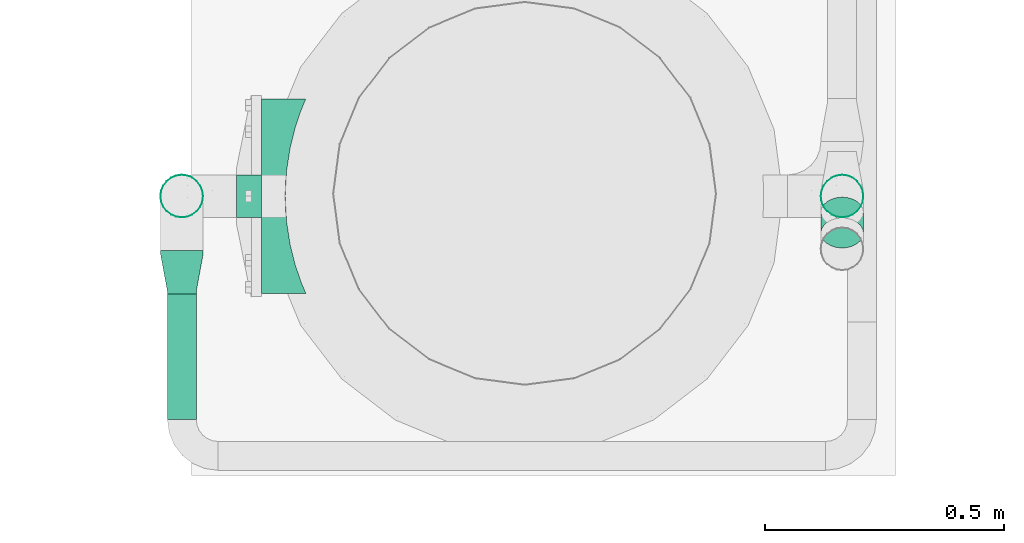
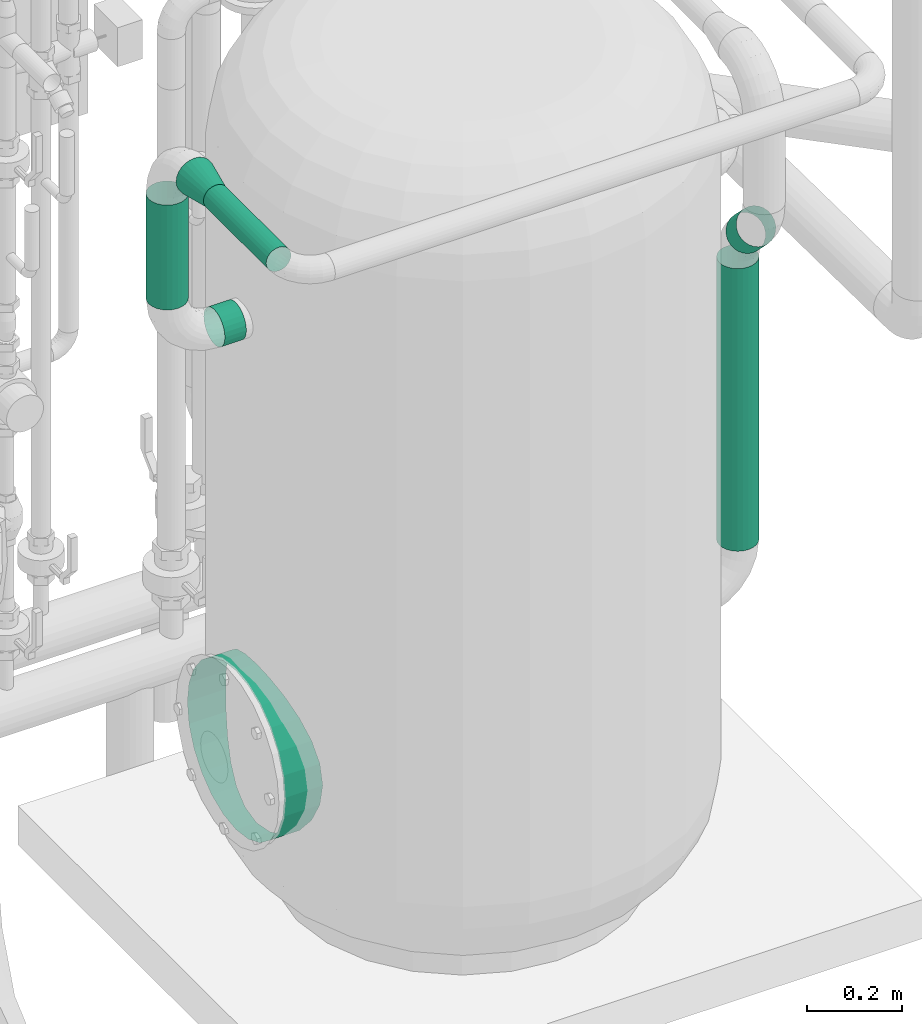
# One storey, part 260 of 374: 6 flow segments, 1 flow fitting.
"""IFC2X3 building model written with IfcOpenShell, lengths in metres."""

from ifc_helpers import new_model, si_unit, direction, origin, place, context, subcontext, project, spatial, open_shell, surface_model, source, transform, mapped, element, save


model = new_model("IFC2X3")

# Units and contexts
model_context = context("Model", 3, precision=1e-05, world=origin(), true_north=direction((-0.4480736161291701, 0.8939966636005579)))
body_context = subcontext(model_context, "Body", "Model", "MODEL_VIEW")
ifc_project = project(units=[si_unit("LENGTHUNIT", "METRE"), si_unit("AREAUNIT", "SQUARE_METRE"), si_unit("VOLUMEUNIT", "CUBIC_METRE"), si_unit("PLANEANGLEUNIT", "RADIAN"), si_unit("THERMODYNAMICTEMPERATUREUNIT", "KELVIN"), si_unit("MASSUNIT", "GRAM", prefix="KILO"), si_unit("TIMEUNIT", "SECOND")], contexts=[model_context])

# Site, building, storey
site_placement = place(None, origin())
site = spatial("IfcSite", under=ifc_project, at=site_placement, Name="Site 1", CompositionType="ELEMENT")
building_placement = place(site_placement, origin())
building = spatial("IfcBuilding", under=site, at=building_placement, Name="Undefined", CompositionType="ELEMENT")
storey_placement = place(building_placement, origin())
storey = spatial("IfcBuildingStorey", under=building, at=storey_placement, Name="Rez de chauss\x8ee", CompositionType="ELEMENT", Elevation=0.0)

# Flow segments
shared_shape_1 = source(origin(), body_context, "Body", "SurfaceModel", [
    surface_model("IfcFaceBasedSurfaceModel", [(0.055729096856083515, 0.04993179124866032, 0.0), (0.002755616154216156, 0.052701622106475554, -2.22044605e-16), (0.0, 0.0, 0.0), (0.0531183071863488, 0.0, 0.0), (-0.04841283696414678, 0.055377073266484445, -0.013729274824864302), (-0.051568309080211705, -0.004971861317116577, -0.013729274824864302), (-0.09428921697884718, 0.05777581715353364, -0.04025219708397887), (-0.09800123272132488, -0.013217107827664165, -0.04025219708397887), (-0.13174712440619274, 0.05973438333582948, -0.07776127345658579), (-0.1360283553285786, -0.02214487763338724, -0.07776127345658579), (-0.15823386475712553, 0.061119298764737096, -0.12370032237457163), (-0.16294034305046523, -0.028892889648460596, -0.12370032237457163), (-0.1719444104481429, 0.06183618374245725, -0.17493867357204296), (-0.17680843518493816, -0.03118910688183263, -0.17493867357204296), (-0.17194441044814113, 0.061836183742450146, -0.2279845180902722), (-0.17665088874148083, -0.028176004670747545, -0.2279845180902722), (-0.15823386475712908, 0.061119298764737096, -0.27922286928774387), (-0.16251509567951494, -0.02075996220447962, -0.27922286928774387), (-0.13174712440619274, 0.05973438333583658, -0.3251619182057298), (-0.13545914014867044, -0.01125854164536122, -0.3251619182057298), (-0.09428921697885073, 0.05777581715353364, -0.3626709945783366), (-0.09744468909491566, -0.0025731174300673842, -0.3626709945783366), (-0.048412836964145, 0.055377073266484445, -0.38919391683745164), (-0.05116845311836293, 0.0026754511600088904, -0.38919391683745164), (0.0027556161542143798, 0.05270162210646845, -0.4029231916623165), (0.0001448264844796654, 0.002769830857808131, -0.4029231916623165), (0.055729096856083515, 0.04993179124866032, -0.4029231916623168), (0.05297348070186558, -0.0027698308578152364, -0.4029231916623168), (0.1068975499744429, 0.04725634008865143, -0.38919391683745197), (0.10374207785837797, -0.013092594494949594, -0.38919391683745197), (0.15277392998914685, 0.044857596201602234, -0.3626709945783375), (0.14906191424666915, -0.026135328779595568, -0.3626709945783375), (0.19023183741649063, 0.04289903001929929, -0.3251619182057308), (0.18595060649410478, -0.03898023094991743, -0.3251619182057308), (0.21671857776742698, 0.04151411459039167, -0.2792228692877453), (0.21201209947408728, -0.04849807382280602, -0.2792228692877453), (0.23042912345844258, 0.040797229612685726, -0.22798451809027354), (0.22556509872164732, -0.052228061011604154, -0.22798451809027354), (0.23042912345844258, 0.04079722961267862, -0.17493867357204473), (0.22572264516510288, -0.04921495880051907, -0.17493867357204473), (0.21671857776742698, 0.04151411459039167, -0.12370032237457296), (0.21243734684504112, -0.040365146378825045, -0.12370032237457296), (0.1902318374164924, 0.04289903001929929, -0.0777612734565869), (0.1865198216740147, -0.028093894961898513, -0.0777612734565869), (0.15277392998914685, 0.044857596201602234, -0.04025219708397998), (0.14961845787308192, -0.015491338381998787, -0.04025219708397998), (0.10689754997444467, 0.04725634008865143, -0.013729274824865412), (0.10414193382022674, -0.005445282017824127, -0.013729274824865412)], [open_shell([[[0, 1, 2, 3]], [[1, 4, 5, 2]], [[4, 6, 7, 5]], [[6, 8, 9, 7]], [[8, 10, 11, 9]], [[10, 12, 13, 11]], [[12, 14, 15, 13]], [[14, 16, 17, 15]], [[16, 18, 19, 17]], [[18, 20, 21, 19]], [[20, 22, 23, 21]], [[22, 24, 25, 23]], [[24, 26, 27, 25]], [[26, 28, 29, 27]], [[28, 30, 31, 29]], [[30, 32, 33, 31]], [[32, 34, 35, 33]], [[34, 36, 37, 35]], [[36, 38, 39, 37]], [[38, 40, 41, 39]], [[40, 42, 43, 41]], [[42, 44, 45, 43]], [[44, 46, 47, 45]], [[46, 0, 3, 47]]])]),
])
flow_segment_1_placement = place(storey_placement, origin())
element("IfcFlowSegment", 1, at=flow_segment_1_placement, inside=storey, Name="Piquage sur circulaire 90°", ObjectType="Piquage sur circulaire 90°", context=body_context, shape_type="MappedRepresentation", body=[
    mapped(shared_shape_1, transform((53.84160418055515, 10.034907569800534, 0.39550829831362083), x_axis=(-0.05221579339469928, -0.990092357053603, -0.13034813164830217), y_axis=(-0.9986358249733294, 0.05176908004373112, 0.0068155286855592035), z_axis=(0.0, 0.13052619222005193, -0.9914448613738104))),
])
shared_shape_2 = source(origin(), body_context, "Body", "SurfaceModel", [
    surface_model("IfcFaceBasedSurfaceModel", [(0.0, 0.011603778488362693, 2.22044605e-16), (0.0, 0.0, 0.0), (0.0519999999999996, 4.4408921e-16, 0.0), (0.0519999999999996, 0.011603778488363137, 0.0), (0.0, -0.01120838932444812, -0.003003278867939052), (0.0519999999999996, -0.011208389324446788, -0.0030032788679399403), (0.0, -0.021257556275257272, -0.008805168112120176), (0.0519999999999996, -0.021257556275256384, -0.008805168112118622), (0.0, -0.029462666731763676, -0.017010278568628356), (0.0519999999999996, -0.02946266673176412, -0.017010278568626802), (0.0, -0.035264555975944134, -0.02705944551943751), (0.0519999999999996, -0.03526455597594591, -0.027059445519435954), (0.0, -0.03826783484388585, -0.038267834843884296), (0.0519999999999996, -0.03826783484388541, -0.0382678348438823), (0.0, -0.038267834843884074, -0.04987161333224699), (0.0519999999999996, -0.03826783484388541, -0.04987161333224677), (0.0, -0.03526455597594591, -0.06108000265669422), (0.0519999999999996, -0.035264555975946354, -0.06108000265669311), (0.0, -0.029462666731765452, -0.07112916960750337), (0.0519999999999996, -0.029462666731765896, -0.07112916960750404), (0.0, -0.021257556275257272, -0.07933428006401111), (0.0519999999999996, -0.021257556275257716, -0.07933428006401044), (0.0, -0.011208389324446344, -0.08513616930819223), (0.0519999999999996, -0.011208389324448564, -0.08513616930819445), (0.0, 0.0, -0.08813944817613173), (0.0519999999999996, -1.776356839e-15, -0.08813944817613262), (0.0, 0.011603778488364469, -0.08813944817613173), (0.0519999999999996, 0.011603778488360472, -0.08813944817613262), (0.0, 0.022812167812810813, -0.08513616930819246), (0.0519999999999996, 0.022812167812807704, -0.08513616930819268), (0.0, 0.03286133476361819, -0.07933428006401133), (0.0519999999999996, 0.0328613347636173, -0.079334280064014), (0.0, 0.04106644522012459, -0.07112916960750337), (0.0519999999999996, 0.041066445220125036, -0.07112916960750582), (0.0, 0.0468683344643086, -0.06108000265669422), (0.0519999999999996, 0.04686833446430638, -0.061080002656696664), (0.0, 0.04987161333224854, -0.04987161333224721), (0.0519999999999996, 0.04987161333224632, -0.04987161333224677), (0.0, 0.04987161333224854, -0.03826783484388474), (0.0519999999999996, 0.04987161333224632, -0.03826783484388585), (0.0, 0.04686833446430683, -0.02705944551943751), (0.0519999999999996, 0.04686833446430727, -0.027059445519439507), (0.0, 0.04106644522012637, -0.017010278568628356), (0.0519999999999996, 0.04106644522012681, -0.01701027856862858), (0.0, 0.032861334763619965, -0.00880516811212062), (0.0519999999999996, 0.03286133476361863, -0.008805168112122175), (0.0, 0.022812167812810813, -0.003003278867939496), (0.0519999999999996, 0.02281216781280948, -0.003003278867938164)], [open_shell([[[0, 1, 2, 3]], [[1, 4, 5, 2]], [[4, 6, 7, 5]], [[6, 8, 9, 7]], [[8, 10, 11, 9]], [[10, 12, 13, 11]], [[12, 14, 15, 13]], [[14, 16, 17, 15]], [[16, 18, 19, 17]], [[18, 20, 21, 19]], [[20, 22, 23, 21]], [[22, 24, 25, 23]], [[24, 26, 27, 25]], [[26, 28, 29, 27]], [[28, 30, 31, 29]], [[30, 32, 33, 31]], [[32, 34, 35, 33]], [[34, 36, 37, 35]], [[36, 38, 39, 37]], [[38, 40, 41, 39]], [[40, 42, 43, 41]], [[42, 44, 45, 43]], [[44, 46, 47, 45]], [[46, 0, 3, 47]]])]),
])
flow_segment_2_placement = place(storey_placement, origin())
element("IfcFlowSegment", 2, at=flow_segment_2_placement, inside=storey, Name="Tube acier d'après DIN 2448", ObjectType="Tube acier d'après DIN 2448", context=body_context, shape_type="MappedRepresentation", body=[
    mapped(shared_shape_2, transform((53.788830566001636, 9.939380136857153, 1.7032889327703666), x_axis=(-1.0, 0.0, 0.0), y_axis=(9.56658874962e-13, -0.13052619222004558, -0.9914448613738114), z_axis=(7.266545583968e-12, -0.9914448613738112, 0.13052619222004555))),
])
shared_shape_3 = source(origin(), body_context, "Body", "SurfaceModel", [
    surface_model("IfcFaceBasedSurfaceModel", [(0.0, 0.011603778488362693, 2.22044605e-16), (0.0, 0.0, 0.0), (0.7228049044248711, -7.105427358e-15, -4.4408921e-16), (0.7228049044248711, 0.011603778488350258, -4.4408921e-16), (0.0, -0.01120838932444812, -0.003003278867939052), (0.7228049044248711, -0.011208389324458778, -0.003003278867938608), (0.0, -0.021257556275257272, -0.008805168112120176), (0.7228049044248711, -0.021257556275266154, -0.00880516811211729), (0.0, -0.029462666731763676, -0.017010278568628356), (0.7228049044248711, -0.02946266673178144, -0.01701027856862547), (0.0, -0.035264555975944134, -0.02705944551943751), (0.7228049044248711, -0.03526455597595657, -0.02705944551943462), (0.0, -0.03826783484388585, -0.038267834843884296), (0.7228049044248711, -0.038267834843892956, -0.038267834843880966), (0.0, -0.038267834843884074, -0.04987161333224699), (0.7228049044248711, -0.03826783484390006, -0.04987161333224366), (0.0, -0.03526455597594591, -0.06108000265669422), (0.7228049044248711, -0.03526455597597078, -0.06108000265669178), (0.0, -0.029462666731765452, -0.07112916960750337), (0.7228049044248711, -0.02946266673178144, -0.07112916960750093), (0.0, -0.021257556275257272, -0.07933428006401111), (0.7228049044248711, -0.02125755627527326, -0.07933428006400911), (0.0, -0.011208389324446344, -0.08513616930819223), (0.7228049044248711, -0.011208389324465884, -0.08513616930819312), (0.0, 0.0, -0.08813944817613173), (0.7228049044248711, -2.1316282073e-14, -0.08813944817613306), (0.0, 0.011603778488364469, -0.08813944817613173), (0.7228049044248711, 0.011603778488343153, -0.08813944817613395), (0.0, 0.022812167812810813, -0.08513616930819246), (0.7228049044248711, 0.02281216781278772, -0.08513616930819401), (0.0, 0.03286133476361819, -0.07933428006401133), (0.7228049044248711, 0.0328613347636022, -0.07933428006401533), (0.0, 0.04106644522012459, -0.07112916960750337), (0.7228049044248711, 0.04106644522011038, -0.07112916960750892), (0.0, 0.0468683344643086, -0.06108000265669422), (0.7228049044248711, 0.04686833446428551, -0.061080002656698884), (0.0, 0.04987161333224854, -0.04987161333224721), (0.7228049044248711, 0.049871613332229, -0.04987161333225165), (0.0, 0.04987161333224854, -0.03826783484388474), (0.7228049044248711, 0.049871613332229, -0.03826783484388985), (0.0, 0.04686833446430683, -0.02705944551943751), (0.7228049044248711, 0.04686833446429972, -0.027059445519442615), (0.0, 0.04106644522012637, -0.017010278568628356), (0.7228049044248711, 0.04106644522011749, -0.017010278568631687), (0.0, 0.032861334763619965, -0.00880516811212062), (0.7228049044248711, 0.0328613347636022, -0.008805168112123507), (0.0, 0.022812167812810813, -0.003003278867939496), (0.7228049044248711, 0.02281216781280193, -0.0030032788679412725)], [open_shell([[[0, 1, 2, 3]], [[1, 4, 5, 2]], [[4, 6, 7, 5]], [[6, 8, 9, 7]], [[8, 10, 11, 9]], [[10, 12, 13, 11]], [[12, 14, 15, 13]], [[14, 16, 17, 15]], [[16, 18, 19, 17]], [[18, 20, 21, 19]], [[20, 22, 23, 21]], [[22, 24, 25, 23]], [[24, 26, 27, 25]], [[26, 28, 29, 27]], [[28, 30, 31, 29]], [[30, 32, 33, 31]], [[32, 34, 35, 33]], [[34, 36, 37, 35]], [[36, 38, 39, 37]], [[38, 40, 41, 39]], [[40, 42, 43, 41]], [[42, 44, 45, 43]], [[44, 46, 47, 45]], [[46, 0, 3, 47]]])]),
])
flow_segment_3_placement = place(storey_placement, origin())
element("IfcFlowSegment", 3, at=flow_segment_3_placement, inside=storey, Name="Tube acier d'après DIN 2448", ObjectType="Tube acier d'après DIN 2448", context=body_context, shape_type="MappedRepresentation", body=[
    mapped(shared_shape_3, transform((54.991326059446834, 10.025250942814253, 0.7057844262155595), x_axis=(0.0, 0.0, 1.0), y_axis=(0.9914448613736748, 0.13052619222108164, 0.0), z_axis=(-0.13052619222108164, 0.9914448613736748, 0.0))),
])
shared_shape_4 = source(origin(), body_context, "Body", "SurfaceModel", [
    surface_model("IfcFaceBasedSurfaceModel", [(0.0, 0.011603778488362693, 2.22044605e-16), (0.0, 0.0, 0.0), (0.06157015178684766, 0.0, 0.0), (0.06157015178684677, 0.011603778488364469, 0.0), (0.0, -0.01120838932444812, -0.003003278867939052), (0.06157015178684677, -0.011208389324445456, -0.003003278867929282), (0.0, -0.021257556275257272, -0.008805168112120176), (0.06157015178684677, -0.021257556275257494, -0.008805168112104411), (0.0, -0.029462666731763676, -0.017010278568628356), (0.06157015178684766, -0.029462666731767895, -0.01701027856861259), (0.0, -0.035264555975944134, -0.02705944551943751), (0.06157015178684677, -0.03526455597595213, -0.027059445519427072), (0.0, -0.03826783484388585, -0.038267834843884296), (0.06157015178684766, -0.03826783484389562, -0.038267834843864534), (0.0, -0.038267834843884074, -0.04987161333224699), (0.06157015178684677, -0.038267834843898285, -0.049871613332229), (0.0, -0.03526455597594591, -0.06108000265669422), (0.06157015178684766, -0.03526455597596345, -0.06108000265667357), (0.0, -0.029462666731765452, -0.07112916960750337), (0.06157015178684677, -0.029462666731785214, -0.07112916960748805), (0.0, -0.021257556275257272, -0.07933428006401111), (0.06157015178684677, -0.021257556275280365, -0.07933428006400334), (0.0, -0.011208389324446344, -0.08513616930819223), (0.06157015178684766, -0.011208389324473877, -0.08513616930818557), (0.0, 0.0, -0.08813944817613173), (0.06157015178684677, -2.5757174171e-14, -0.08813944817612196), (0.0, 0.011603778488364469, -0.08813944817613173), (0.061570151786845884, 0.011603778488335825, -0.08813944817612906), (0.0, 0.022812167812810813, -0.08513616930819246), (0.061570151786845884, 0.022812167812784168, -0.08513616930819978), (0.0, 0.03286133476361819, -0.07933428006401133), (0.06157015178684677, 0.03286133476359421, -0.07933428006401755), (0.0, 0.04106644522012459, -0.07112916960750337), (0.061570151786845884, 0.041066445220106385, -0.07112916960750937), (0.0, 0.0468683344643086, -0.06108000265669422), (0.06157015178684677, 0.04686833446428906, -0.0610800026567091), (0.0, 0.04987161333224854, -0.04987161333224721), (0.061570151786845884, 0.049871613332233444, -0.049871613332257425), (0.0, 0.04987161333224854, -0.03826783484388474), (0.06157015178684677, 0.04987161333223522, -0.03826783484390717), (0.0, 0.04686833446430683, -0.02705944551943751), (0.061570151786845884, 0.04686833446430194, -0.02705944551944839), (0.0, 0.04106644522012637, -0.017010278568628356), (0.06157015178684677, 0.04106644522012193, -0.017010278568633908), (0.0, 0.032861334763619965, -0.00880516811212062), (0.061570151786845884, 0.03286133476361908, -0.008805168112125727), (0.0, 0.022812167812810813, -0.003003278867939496), (0.061570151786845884, 0.022812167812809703, -0.003003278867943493)], [open_shell([[[0, 1, 2, 3]], [[1, 4, 5, 2]], [[4, 6, 7, 5]], [[6, 8, 9, 7]], [[8, 10, 11, 9]], [[10, 12, 13, 11]], [[12, 14, 15, 13]], [[14, 16, 17, 15]], [[16, 18, 19, 17]], [[18, 20, 21, 19]], [[20, 22, 23, 21]], [[22, 24, 25, 23]], [[24, 26, 27, 25]], [[26, 28, 29, 27]], [[28, 30, 31, 29]], [[30, 32, 33, 31]], [[32, 34, 35, 33]], [[34, 36, 37, 35]], [[36, 38, 39, 37]], [[38, 40, 41, 39]], [[40, 42, 43, 41]], [[42, 44, 45, 43]], [[44, 46, 47, 45]], [[46, 0, 3, 47]]])]),
])
flow_segment_4_placement = place(storey_placement, origin())
element("IfcFlowSegment", 4, at=flow_segment_4_placement, inside=storey, Name="Tube acier d'après DIN 2448", ObjectType="Tube acier d'après DIN 2448", context=body_context, shape_type="MappedRepresentation", body=[
    mapped(shared_shape_4, transform((54.95989516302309, 9.94079079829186, 1.5010645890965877), x_axis=(-8.6595606e-17, -0.7071067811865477, 0.7071067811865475), y_axis=(-0.13052619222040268, 0.701057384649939, 0.7010573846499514), z_axis=(-0.9914448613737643, -0.09229595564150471, -0.09229595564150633))),
])
shared_shape_5 = source(origin(), body_context, "Body", "SurfaceModel", [
    surface_model("IfcFaceBasedSurfaceModel", [(0.0, 0.011603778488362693, 2.22044605e-16), (0.0, 0.0, 0.0), (0.2682155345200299, 0.0, -1.776356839e-15), (0.2682155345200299, 0.011603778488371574, -1.776356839e-15), (0.0, -0.01120838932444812, -0.003003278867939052), (0.2682155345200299, -0.011208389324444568, -0.0030032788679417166), (0.0, -0.021257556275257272, -0.008805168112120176), (0.2682155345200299, -0.02125755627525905, -0.008805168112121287), (0.0, -0.029462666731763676, -0.017010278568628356), (0.2682155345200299, -0.02946266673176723, -0.017010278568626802), (0.0, -0.035264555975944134, -0.02705944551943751), (0.2682155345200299, -0.03526455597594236, -0.02705944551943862), (0.0, -0.03826783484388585, -0.038267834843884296), (0.2682155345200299, -0.038267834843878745, -0.03826783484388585), (0.0, -0.038267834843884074, -0.04987161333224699), (0.2682155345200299, -0.03826783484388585, -0.049871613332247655), (0.0, -0.03526455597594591, -0.06108000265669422), (0.2682155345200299, -0.03526455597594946, -0.06108000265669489), (0.0, -0.029462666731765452, -0.07112916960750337), (0.2682155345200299, -0.02946266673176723, -0.07112916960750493), (0.0, -0.021257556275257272, -0.07933428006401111), (0.2682155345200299, -0.02125755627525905, -0.07933428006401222), (0.0, -0.011208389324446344, -0.08513616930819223), (0.2682155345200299, -0.011208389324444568, -0.08513616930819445), (0.0, 0.0, -0.08813944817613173), (0.2682155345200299, 7.105427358e-15, -0.0881394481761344), (0.0, 0.011603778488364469, -0.08813944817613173), (0.2682155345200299, 0.011603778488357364, -0.0881394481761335), (0.0, 0.022812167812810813, -0.08513616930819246), (0.2682155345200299, 0.02281216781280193, -0.08513616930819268), (0.0, 0.03286133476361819, -0.07933428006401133), (0.2682155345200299, 0.03286133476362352, -0.079334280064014), (0.0, 0.04106644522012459, -0.07112916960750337), (0.2682155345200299, 0.0410664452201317, -0.07112916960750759), (0.0, 0.0468683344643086, -0.06108000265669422), (0.2682155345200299, 0.04686833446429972, -0.061080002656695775), (0.0, 0.04987161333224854, -0.04987161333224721), (0.2682155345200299, 0.049871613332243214, -0.04987161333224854), (0.0, 0.04987161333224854, -0.03826783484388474), (0.2682155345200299, 0.049871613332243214, -0.03826783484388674), (0.0, 0.04686833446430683, -0.02705944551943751), (0.2682155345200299, 0.04686833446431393, -0.027059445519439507), (0.0, 0.04106644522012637, -0.017010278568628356), (0.2682155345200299, 0.0410664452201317, -0.017010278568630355), (0.0, 0.032861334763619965, -0.00880516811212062), (0.2682155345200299, 0.03286133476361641, -0.008805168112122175), (0.0, 0.022812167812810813, -0.003003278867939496), (0.2682155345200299, 0.02281216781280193, -0.0030032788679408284)], [open_shell([[[0, 1, 2, 3]], [[1, 4, 5, 2]], [[4, 6, 7, 5]], [[6, 8, 9, 7]], [[8, 10, 11, 9]], [[10, 12, 13, 11]], [[12, 14, 15, 13]], [[14, 16, 17, 15]], [[16, 18, 19, 17]], [[18, 20, 21, 19]], [[20, 22, 23, 21]], [[22, 24, 25, 23]], [[24, 26, 27, 25]], [[26, 28, 29, 27]], [[28, 30, 31, 29]], [[30, 32, 33, 31]], [[32, 34, 35, 33]], [[34, 36, 37, 35]], [[36, 38, 39, 37]], [[38, 40, 41, 39]], [[40, 42, 43, 41]], [[42, 44, 45, 43]], [[44, 46, 47, 45]], [[46, 0, 3, 47]]])]),
])
flow_segment_5_placement = place(storey_placement, origin())
element("IfcFlowSegment", 5, at=flow_segment_5_placement, inside=storey, Name="Tube acier d'après DIN 2448", ObjectType="Tube acier d'après DIN 2448", context=body_context, shape_type="MappedRepresentation", body=[
    mapped(shared_shape_5, transform((53.63433507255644, 9.939380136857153, 1.8057844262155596), x_axis=(0.0, 0.0, 1.0), y_axis=(-0.9914448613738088, -0.13052619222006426, 0.0), z_axis=(0.13052619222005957, -0.9914448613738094, 0.0))),
])

# Flow fitting
shared_shape_6 = source(origin(), body_context, "Body", "SurfaceModel", [
    surface_model("IfcFaceBasedSurfaceModel", [(0.0, 0.0, 0.0), (0.011603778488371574, 0.0, -1.776356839e-15), (0.011603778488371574, 0.0071496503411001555, -1.776356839e-15), (7.105427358e-15, 0.0071496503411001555, 0.0), (0.022812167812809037, 0.0, -0.0030032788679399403), (0.022812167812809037, 0.0071496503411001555, -0.0030032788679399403), (0.03286133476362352, 0.0, -0.008805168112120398), (0.03286133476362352, 0.0071496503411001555, -0.008805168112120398), (0.0410664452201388, 0.0, -0.01701027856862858), (0.0410664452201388, 0.0071496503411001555, -0.01701027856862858), (0.04686833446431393, 0.0, -0.027059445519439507), (0.04686833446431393, 0.0071496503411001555, -0.027059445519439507), (0.04987161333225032, 0.0, -0.03826783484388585), (0.04987161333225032, 0.0071496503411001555, -0.03826783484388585), (0.049871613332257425, 0.0, -0.04987161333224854), (0.049871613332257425, 0.0071496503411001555, -0.04987161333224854), (0.04686833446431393, 0.0, -0.06108000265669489), (0.04686833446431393, 0.0071496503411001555, -0.06108000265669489), (0.0410664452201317, 0.0, -0.07112916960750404), (0.0410664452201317, 0.0071496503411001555, -0.07112916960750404), (0.03286133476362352, 0.0, -0.07933428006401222), (0.03286133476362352, 0.0071496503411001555, -0.07933428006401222), (0.022812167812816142, 0.0, -0.08513616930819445), (0.022812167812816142, 0.0071496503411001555, -0.08513616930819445), (0.011603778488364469, 0.0, -0.08813944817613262), (0.011603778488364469, 0.0071496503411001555, -0.08813944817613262), (0.0, 0.0, -0.08813944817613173), (1.4210854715e-14, 0.0071496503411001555, -0.08813944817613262), (-0.011208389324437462, 0.0, -0.08513616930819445), (-0.011208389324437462, 0.0071496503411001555, -0.08513616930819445), (-0.021257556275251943, 0.0, -0.07933428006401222), (-0.021257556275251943, 0.0071496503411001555, -0.07933428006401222), (-0.02946266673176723, 0.0, -0.07112916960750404), (-0.02946266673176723, 0.0071496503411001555, -0.07112916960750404), (-0.03526455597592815, 0.0, -0.06108000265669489), (-0.03526455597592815, 0.0071496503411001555, -0.06108000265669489), (-0.038267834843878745, 0.0, -0.04987161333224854), (-0.038267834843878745, 0.0071496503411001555, -0.04987161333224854), (-0.03826783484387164, 0.0, -0.038267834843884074), (-0.03826783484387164, 0.0071496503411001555, -0.038267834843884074), (-0.03526455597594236, 0.0, -0.027059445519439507), (-0.03526455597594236, 0.0071496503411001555, -0.027059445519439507), (-0.029462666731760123, 0.0, -0.01701027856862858), (-0.029462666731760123, 0.0071496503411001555, -0.01701027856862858), (-0.021257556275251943, 0.0, -0.008805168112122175), (-0.021257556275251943, 0.0071496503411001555, -0.008805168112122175), (-0.011208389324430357, 0.0, -0.0030032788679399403), (-0.011208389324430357, 0.0071496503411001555, -0.0030032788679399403), (0.03569395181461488, 0.08450909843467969, -0.04800508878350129), (0.035693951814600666, 0.08450909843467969, -0.0401343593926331), (0.0336568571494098, 0.08450909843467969, -0.05560762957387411), (0.029721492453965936, 0.08450909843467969, -0.06242388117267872), (0.024156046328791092, 0.08450909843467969, -0.06798932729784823), (0.01733979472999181, 0.08450909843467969, -0.07192469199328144), (0.009737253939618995, 0.08450909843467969, -0.07396178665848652), (0.0018665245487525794, 0.08450909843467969, -0.07396178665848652), (-0.005736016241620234, 0.08450909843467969, -0.07192469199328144), (-0.012552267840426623, 0.08450909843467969, -0.06798932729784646), (-0.018117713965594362, 0.08450909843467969, -0.062423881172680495), (-0.022053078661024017, 0.08450909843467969, -0.05560762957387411), (-0.024090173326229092, 0.08450909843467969, -0.04800508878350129), (-0.024090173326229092, 0.08450909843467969, -0.040134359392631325), (-0.022053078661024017, 0.08450909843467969, -0.03253181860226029), (-0.018117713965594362, 0.08450909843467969, -0.0257155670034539), (-0.012552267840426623, 0.08450909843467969, -0.02015012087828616), (-0.005736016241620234, 0.08450909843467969, -0.016214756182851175), (0.0018665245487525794, 0.08450909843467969, -0.0141776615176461), (0.009737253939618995, 0.08450909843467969, -0.0141776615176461), (0.017339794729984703, 0.08450909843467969, -0.016214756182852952), (0.024156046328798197, 0.08450909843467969, -0.02015012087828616), (0.029721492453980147, 0.08450909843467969, -0.0257155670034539), (0.0336568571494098, 0.08450909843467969, -0.03253181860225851), (0.009737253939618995, 0.08999999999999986, -0.0141776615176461), (0.0018665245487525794, 0.08999999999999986, -0.0141776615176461), (0.017339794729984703, 0.08999999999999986, -0.016214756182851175), (0.024156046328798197, 0.08999999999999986, -0.02015012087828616), (0.029721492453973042, 0.08999999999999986, -0.0257155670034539), (0.0336568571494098, 0.08999999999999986, -0.03253181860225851), (0.035693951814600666, 0.08999999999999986, -0.0401343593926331), (0.03569395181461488, 0.08999999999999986, -0.04800508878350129), (0.0336568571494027, 0.08999999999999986, -0.05560762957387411), (0.029721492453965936, 0.08999999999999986, -0.06242388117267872), (0.024156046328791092, 0.08999999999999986, -0.06798932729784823), (0.01733979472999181, 0.08999999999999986, -0.07192469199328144), (0.00973725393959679, 0.08999999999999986, -0.07396178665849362), (0.0018665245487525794, 0.08999999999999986, -0.07396178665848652), (-0.005736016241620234, 0.08999999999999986, -0.07192469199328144), (-0.012552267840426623, 0.08999999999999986, -0.06798932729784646), (-0.018117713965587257, 0.08999999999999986, -0.06242388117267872), (-0.022053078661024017, 0.08999999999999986, -0.05560762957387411), (-0.024090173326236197, 0.08999999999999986, -0.04800508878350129), (-0.024090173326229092, 0.08999999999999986, -0.040134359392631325), (-0.02205307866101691, 0.08999999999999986, -0.03253181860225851), (-0.018117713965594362, 0.08999999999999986, -0.0257155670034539), (-0.012552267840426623, 0.08999999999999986, -0.020150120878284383), (-0.005736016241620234, 0.08999999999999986, -0.016214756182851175)], [open_shell([[[0, 1, 2, 3]], [[1, 4, 5, 2]], [[4, 6, 7, 5]], [[6, 8, 9, 7]], [[8, 10, 11, 9]], [[10, 12, 13, 11]], [[12, 14, 15, 13]], [[14, 16, 17, 15]], [[16, 18, 19, 17]], [[18, 20, 21, 19]], [[20, 22, 23, 21]], [[22, 24, 25, 23]], [[24, 26, 27, 25]], [[26, 28, 29, 27]], [[28, 30, 31, 29]], [[30, 32, 33, 31]], [[32, 34, 35, 33]], [[34, 36, 37, 35]], [[36, 38, 39, 37]], [[38, 40, 41, 39]], [[40, 42, 43, 41]], [[42, 44, 45, 43]], [[44, 46, 47, 45]], [[46, 0, 3, 47]], [[13, 15, 48, 49]], [[15, 17, 50, 48]], [[17, 19, 51, 50]], [[19, 21, 52, 51]], [[21, 23, 53, 52]], [[23, 25, 54, 53]], [[25, 27, 55, 54]], [[27, 29, 56, 55]], [[29, 31, 57, 56]], [[31, 33, 58, 57]], [[33, 35, 59, 58]], [[35, 37, 60, 59]], [[37, 39, 61, 60]], [[39, 41, 62, 61]], [[41, 43, 63, 62]], [[43, 45, 64, 63]], [[45, 47, 65, 64]], [[47, 3, 66, 65]], [[3, 2, 67, 66]], [[2, 5, 68, 67]], [[5, 7, 69, 68]], [[7, 9, 70, 69]], [[9, 11, 71, 70]], [[11, 13, 49, 71]], [[66, 67, 72, 73]], [[67, 68, 74, 72]], [[68, 69, 75, 74]], [[69, 70, 76, 75]], [[70, 71, 77, 76]], [[71, 49, 78, 77]], [[49, 48, 79, 78]], [[48, 50, 80, 79]], [[50, 51, 81, 80]], [[51, 52, 82, 81]], [[52, 53, 83, 82]], [[53, 54, 84, 83]], [[54, 55, 85, 84]], [[55, 56, 86, 85]], [[56, 57, 87, 86]], [[57, 58, 88, 87]], [[58, 59, 89, 88]], [[59, 60, 90, 89]], [[60, 61, 91, 90]], [[61, 62, 92, 91]], [[62, 63, 93, 92]], [[63, 64, 94, 93]], [[64, 65, 95, 94]], [[65, 66, 73, 95]]])]),
])
flow_fitting_placement = place(storey_placement, origin())
element("IfcFlowFitting", 6, at=flow_fitting_placement, inside=storey, Name="Réduction", ObjectType="Réduction", context=body_context, shape_type="MappedRepresentation", body=[
    mapped(shared_shape_6, transform((53.57838056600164, 9.868315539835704, 2.1879999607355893), x_axis=(0.130526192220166, 0.0, -0.9914448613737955), y_axis=(0.0, -1.0, 0.0), z_axis=(-0.9914448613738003, 0.0, -0.13052619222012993))),
])

# Flow segment
shared_shape_7 = source(origin(), body_context, "Body", "SurfaceModel", [
    surface_model("IfcFaceBasedSurfaceModel", [(0.0, 0.007870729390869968, 7.105427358e-15), (0.0, 0.0, 0.0), (0.2627579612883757, 0.0, 0.0), (0.2627579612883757, 0.00787072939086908, 0.0), (0.0, -0.00760254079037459, -0.0020370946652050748), (0.2627579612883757, -0.00760254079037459, -0.00203709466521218), (0.0, -0.01441879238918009, -0.00597245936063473), (0.2627579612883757, -0.014418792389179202, -0.00597245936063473), (0.0, -0.019984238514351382, -0.011537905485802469), (0.2627579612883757, -0.019984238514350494, -0.011537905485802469), (0.0, -0.023919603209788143, -0.018354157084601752), (0.2627579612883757, -0.02391960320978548, -0.018354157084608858), (0.0, -0.025956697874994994, -0.025956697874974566), (0.2627579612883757, -0.025956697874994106, -0.02595669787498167), (0.0, -0.025956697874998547, -0.03382742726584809), (0.2627579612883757, -0.025956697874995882, -0.03382742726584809), (0.0, -0.02391960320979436, -0.041429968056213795), (0.2627579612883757, -0.023919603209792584, -0.0414299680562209), (0.0, -0.019984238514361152, -0.04824621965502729), (0.2627579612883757, -0.019984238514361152, -0.048246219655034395), (0.0, -0.01441879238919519, -0.05381166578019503), (0.2627579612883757, -0.014418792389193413, -0.05381166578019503), (0.0, -0.007602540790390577, -0.05774703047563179), (0.2627579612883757, -0.007602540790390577, -0.05774703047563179), (0.0, -1.7763568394e-14, -0.05978412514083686), (0.2627579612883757, -1.8651746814e-14, -0.05978412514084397), (0.0, 0.007870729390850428, -0.05978412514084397), (0.2627579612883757, 0.007870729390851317, -0.05978412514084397), (0.0, 0.015473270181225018, -0.057747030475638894), (0.2627579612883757, 0.015473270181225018, -0.057747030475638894), (0.0, 0.022289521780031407, -0.05381166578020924), (0.2627579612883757, 0.02228952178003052, -0.053811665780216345), (0.0, 0.027854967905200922, -0.048246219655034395), (0.2627579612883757, 0.027854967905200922, -0.0482462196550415), (0.0, 0.031790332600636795, -0.04142996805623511), (0.2627579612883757, 0.03179033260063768, -0.04142996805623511), (0.0, 0.033827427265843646, -0.0338274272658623), (0.2627579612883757, 0.033827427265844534, -0.0338274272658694), (0.0, 0.0338274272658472, -0.025956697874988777), (0.2627579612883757, 0.03382742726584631, -0.025956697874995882), (0.0, 0.0317903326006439, -0.01835415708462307), (0.2627579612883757, 0.03179033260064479, -0.01835415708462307), (0.0, 0.02785496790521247, -0.01153790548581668), (0.2627579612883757, 0.02785496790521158, -0.01153790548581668), (0.0, 0.022289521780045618, -0.005972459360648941), (0.2627579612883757, 0.02228952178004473, -0.005972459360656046), (0.0, 0.015473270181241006, -0.0020370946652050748), (0.2627579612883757, 0.015473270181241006, -0.00203709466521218)], [open_shell([[[0, 1, 2, 3]], [[1, 4, 5, 2]], [[4, 6, 7, 5]], [[6, 8, 9, 7]], [[8, 10, 11, 9]], [[10, 12, 13, 11]], [[12, 14, 15, 13]], [[14, 16, 17, 15]], [[16, 18, 19, 17]], [[18, 20, 21, 19]], [[20, 22, 23, 21]], [[22, 24, 25, 23]], [[24, 26, 27, 25]], [[26, 28, 29, 27]], [[28, 30, 31, 29]], [[30, 32, 33, 31]], [[32, 34, 35, 33]], [[34, 36, 37, 35]], [[36, 38, 39, 37]], [[38, 40, 41, 39]], [[40, 42, 43, 41]], [[42, 44, 45, 43]], [[44, 46, 47, 45]], [[46, 0, 3, 47]]])]),
])
flow_segment_6_placement = place(storey_placement, origin())
element("IfcFlowSegment", 7, at=flow_segment_6_placement, inside=storey, Name="Tube acier d'après DIN 2448", ObjectType="Tube acier d'après DIN 2448", context=body_context, shape_type="MappedRepresentation", body=[
    mapped(shared_shape_7, transform((53.65195322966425, 9.778315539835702, 2.1958033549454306), x_axis=(0.0, -1.0, 0.0), y_axis=(0.130526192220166, 0.0, -0.9914448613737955), z_axis=(0.9914448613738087, 0.0, 0.13052619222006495))),
])

save(model, "model.ifc")
